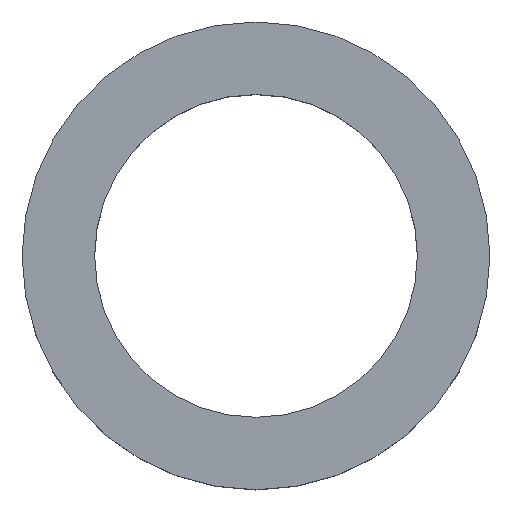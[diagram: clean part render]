
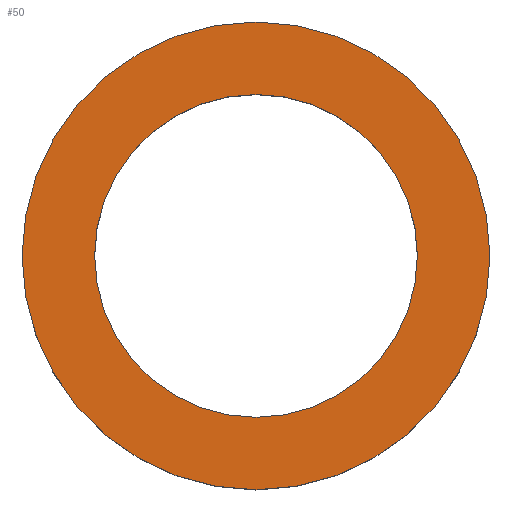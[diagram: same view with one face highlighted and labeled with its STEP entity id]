
A CAD part, top view. The second image highlights one B-rep face of the part: STEP entity #50.
In plain terms, the highlighted planar face has unit normal (0, 0, 1).
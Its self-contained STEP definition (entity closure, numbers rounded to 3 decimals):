
#21 = EDGE_CURVE('',#22,#22,#24,.T.);
#22 = VERTEX_POINT('',#23);
#23 = CARTESIAN_POINT('',(10.,0.,5.));
#24 = CIRCLE('',#25,10.);
#25 = AXIS2_PLACEMENT_3D('',#26,#27,#28);
#26 = CARTESIAN_POINT('',(0.,0.,5.));
#27 = DIRECTION('',(0.,0.,1.));
#28 = DIRECTION('',(1.,0.,0.));
#50 = ADVANCED_FACE('',(#51,#54),#65,.T.);
#51 = FACE_BOUND('',#52,.T.);
#52 = EDGE_LOOP('',(#53));
#53 = ORIENTED_EDGE('',*,*,#21,.T.);
#54 = FACE_BOUND('',#55,.T.);
#55 = EDGE_LOOP('',(#56));
#56 = ORIENTED_EDGE('',*,*,#57,.F.);
#57 = EDGE_CURVE('',#58,#58,#60,.T.);
#58 = VERTEX_POINT('',#59);
#59 = CARTESIAN_POINT('',(6.9,0.,5.));
#60 = CIRCLE('',#61,6.9);
#61 = AXIS2_PLACEMENT_3D('',#62,#63,#64);
#62 = CARTESIAN_POINT('',(0.,0.,5.));
#63 = DIRECTION('',(0.,0.,1.));
#64 = DIRECTION('',(1.,0.,0.));
#65 = PLANE('',#66);
#66 = AXIS2_PLACEMENT_3D('',#67,#68,#69);
#67 = CARTESIAN_POINT('',(0.,0.,5.));
#68 = DIRECTION('',(0.,0.,1.));
#69 = DIRECTION('',(1.,0.,0.));
